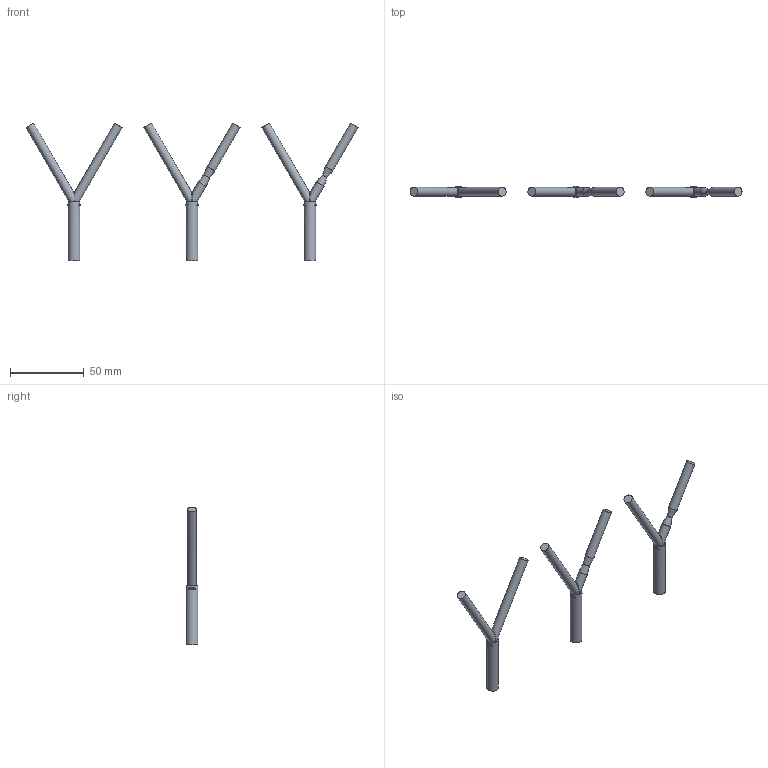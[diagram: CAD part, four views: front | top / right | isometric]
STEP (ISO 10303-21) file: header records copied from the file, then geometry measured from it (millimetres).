
FILE_DESCRIPTION(('Open CASCADE Model'),'2;1');
FILE_NAME('Open CASCADE Shape Model','2026-10-29T17:59:20',('Author'),( 'Open CASCADE'),'Open CASCADE STEP processor 7.9','Open CASCADE 7.9' ,'Unknown');
FILE_SCHEMA(('AUTOMOTIVE_DESIGN { 1 0 10303 214 1 1 1 1 }'));
Length unit declared in the file: millimetre
Products named in the file (4): Open CASCADE STEP translator 7.9 4; Open CASCADE STEP translator 7.9 4.1; Open CASCADE STEP translator 7.9 4.2; Open CASCADE STEP translator 7.9 4.3
Assembly tree (3 placements, depth 2):
  Open CASCADE STEP translator 7.9 4
    Open CASCADE STEP translator 7.9 4.1
    Open CASCADE STEP translator 7.9 4.2
    Open CASCADE STEP translator 7.9 4.3
Bounding box: 225.2 x 8 x 93.46 mm (x, y, z)
Volume: 15792.8 mm3; surface area: 9865.7 mm2
Topology: 3 solids, 3 shells, 51 faces, 108 edges, 63 vertices
Faces by surface type: plane 18, cylinder 17, torus 6, bspline 6, revolution 4
Full cylindrical faces by diameter (mm): 6 x8, 8 x3
Entity records: 7059 total; most frequent: CARTESIAN_POINT 5045, DIRECTION 333, ORIENTED_EDGE 204, PCURVE 204, DEFINITIONAL_REPRESENTATION 204, LINE 110, VECTOR 110, EDGE_CURVE 102
